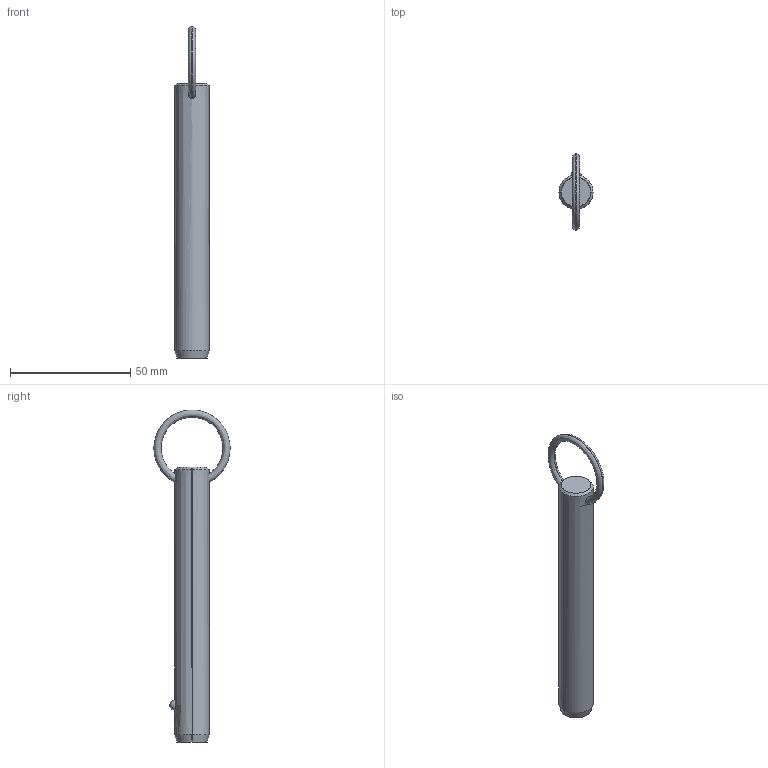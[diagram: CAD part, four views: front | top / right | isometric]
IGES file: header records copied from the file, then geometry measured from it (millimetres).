
Start section: SolidWorks IGES file using analytic representation for surfaces
Global section: file name: C:\Users\liam_\OneDrive\Documents\WORK\Work for WixRoyd\Job Files\J-00019 - Matt Davis CAD Checking\04. CAD Drawings\automotion20190605\P1250.2_v2\P1250.2_v2_20190729_IGES\P1250.056-350.igs; native system: SolidWorks 2017; preprocessor: SolidWorks 2017; author: liam_; date: 190729.232056; units: millimetre
Bounding box: 14.2 x 31.7 x 138 mm (x, y, z)
Surface area: 6060.4 mm2 (no closed solid volume)
Topology: 0 solids, 0 shells, 12 faces, 285 edges, 283 vertices
Faces by surface type: revolution 8, bspline 4
